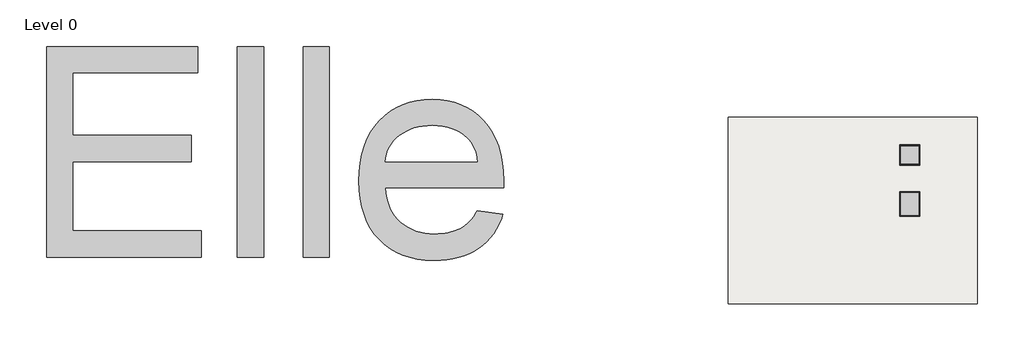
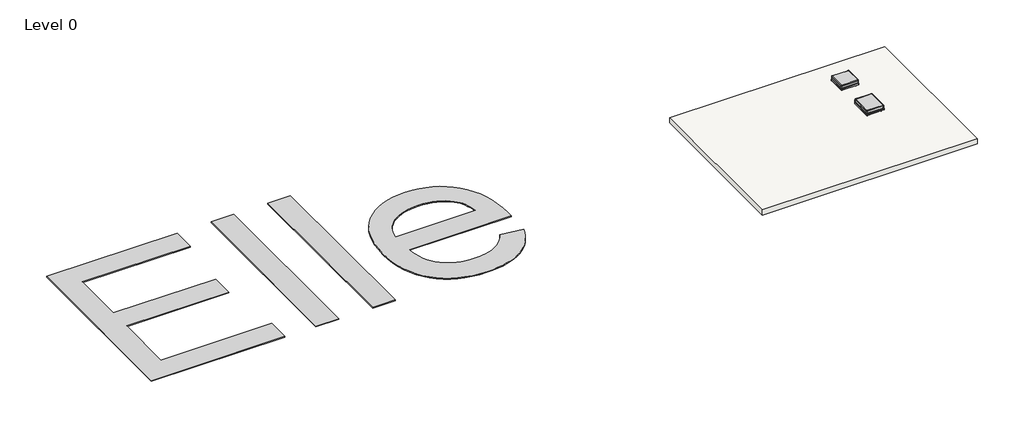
# One storey, incomplete: 2 furniture elements, 1 proxy, 1 slab.
"""IFC4 building model written with IfcOpenShell, lengths in millimetres."""

from ifc_helpers import new_model, si_unit, frame, origin, origin_with_axes, place, context, project, spatial, polyline, outline, extrude, transform, mapped, element, save
from components import furniture_ca96096a, furniture_bdf2a79c

model = new_model("IFC4")

# Units and contexts
model_context = context("Model", 3, world=origin())
ifc_project = project(units=[si_unit("LENGTHUNIT", "METRE", prefix="MILLI")], contexts=[model_context])

# Site, building, storey
site = spatial("IfcSite", under=ifc_project)
building = spatial("IfcBuilding", under=site)
storey = spatial("IfcBuildingStorey", under=building, Name="Level 0", Elevation=0.0)

# Proxy
placement = place(None, origin())
element("IfcBuildingElementProxy", 1, Name="10 mm", ObjectType="10 mm", at=placement, inside=storey, context=model_context, shape_type="SweptSolid", body=[
    extrude(outline(polyline([(-137574.8894465, 70710.4267394), (-137574.8894465, 80756.0577544), (-130354.5921545, 80756.0577544), (-130354.5921545, 79500.3538775), (-136319.1855697, 79500.3538775), (-136319.1855697, 76518.0571699), (-130668.5181238, 76518.0571699), (-130668.5181238, 75262.3532931), (-136319.1855697, 75262.3532931), (-136319.1855697, 71966.1306163), (-130197.6291699, 71966.1306163), (-130197.6291699, 70710.4267394), (-137574.8894465, 70710.4267394)])), origin_with_axes(), (0.0, 0.0, 1.0), 50.0),
    extrude(outline(polyline([(-128471.0363392, 70710.4267394), (-128471.0363392, 80756.0577544), (-127215.3324624, 80756.0577544), (-127215.3324624, 70710.4267394), (-128471.0363392, 70710.4267394)])), origin_with_axes(), (0.0, 0.0, 1.0), 50.0),
    extrude(outline(polyline([(-125331.7766471, 70710.4267394), (-125331.7766471, 80756.0577544), (-124076.0727702, 80756.0577544), (-124076.0727702, 70710.4267394), (-125331.7766471, 70710.4267394)])), origin_with_axes(), (0.0, 0.0, 1.0), 50.0),
    extrude(outline(polyline([(-117027.4537426, 72907.9085239), (-115796.2753321, 72750.9455393), (-115882.4018721, 72497.0686416), (-115985.0447808, 72257.8303816), (-116104.2040583, 72033.2307594), (-116239.8797046, 71823.2697748), (-116392.0717196, 71627.947428), (-116560.7801033, 71447.2637189), (-116746.0048558, 71281.2186476), (-116947.745977, 71129.8122139), (-117165.0071199, 70994.7305438), (-117396.7919373, 70877.6597631), (-117643.1004294, 70778.5998716), (-117903.9325961, 70697.5508696), (-118179.2884374, 70634.5127569), (-118469.1679533, 70589.4855335), (-118773.5711438, 70562.4691995), (-119092.4980089, 70553.4637548), (-119492.6846417, 70569.002937), (-119871.6414178, 70615.6204836), (-120229.3683371, 70693.3163945), (-120565.8653995, 70802.0906699), (-120881.1326052, 70941.9433096), (-121175.1699541, 71112.8743137), (-121447.9774461, 71314.8836822), (-121699.5550813, 71547.9714151), (-121925.457619, 71809.1101501), (-122121.2398183, 72095.272525), (-122286.9016793, 72406.4585398), (-122422.4432019, 72742.6681944), (-122527.8643861, 73103.901489), (-122603.165232, 73490.1584234), (-122648.3457395, 73901.4389977), (-122663.4059087, 74337.7432119), (-122648.1924554, 74788.8968295), (-122602.5520953, 75214.0687812), (-122526.4848286, 75613.259067), (-122419.9906552, 75986.4676869), (-122283.0695752, 76333.6946409), (-122115.7215884, 76654.939929), (-121917.9466949, 76950.2035511), (-121689.7448948, 77219.4855074), (-121437.2858756, 77459.7584355), (-121166.739325, 77667.9949732), (-120878.1052429, 77844.1951205), (-120571.3836295, 77988.3588773), (-120246.5744846, 78100.4862438), (-119903.6778082, 78180.5772198), (-119542.6936005, 78228.6318054), (-119163.6218613, 78244.6500006), (-118796.9469789, 78228.6701265), (-118447.4016019, 78180.730504), (-118114.9857303, 78100.8311331), (-117799.6993641, 77988.972014), (-117501.5425034, 77845.1531465), (-117220.515148, 77669.3745307), (-116956.617298, 77461.6361665), (-116709.8489534, 77221.938054), (-116486.533086, 76953.2692344), (-116292.9926676, 76658.6187489), (-116129.2276982, 76337.9865975), (-115995.2381778, 75991.3727802), (-115891.0241064, 75618.7772969), (-115816.5854839, 75220.2001478), (-115771.9223104, 74795.6413327), (-115757.0345859, 74345.1008518), (-115764.3922258, 74006.6494162), (-121407.7020318, 74006.6494162), (-121380.3216479, 73748.3272777), (-121334.9686957, 73505.5634819), (-121271.6431752, 73278.3580289), (-121190.3450864, 73066.7109185), (-121091.0744292, 72870.6221509), (-120973.8312038, 72690.091726), (-120838.61541, 72525.1196437), (-120685.427048, 72375.7059042), (-120518.2515059, 72242.9234966), (-120341.0741721, 72127.84541), (-120153.8950465, 72030.4716444), (-119956.7141292, 71950.8021998), (-119749.5314201, 71888.8370763), (-119532.3469193, 71844.5762737), (-119305.1606268, 71818.0197922), (-119067.9725425, 71809.1676317), (-118891.0059744, 71813.2679831), (-118720.6306254, 71825.5690373), (-118556.8464955, 71846.0707943), (-118399.6535846, 71874.7732541), (-118249.0518928, 71911.6764168), (-118105.0414201, 71956.7802822), (-117967.6221665, 72010.0848505), (-117836.794132, 72071.5901216), (-117712.5573165, 72142.0625163), (-117594.9117202, 72222.2684554), (-117483.8573429, 72312.207939), (-117379.3941847, 72411.8809671), (-117281.5222455, 72521.2875396), (-117190.2415255, 72640.4276566), (-117105.5520245, 72769.301318), (-117027.4537426, 72907.9085239)]), holes=[polyline([(-121407.7020318, 75262.3532931), (-117012.7384628, 75262.3532931), (-117039.908081, 75445.9110802), (-117077.2710961, 75617.6659867), (-117124.8275082, 75777.6180126), (-117182.5773172, 75925.7671577), (-117250.5205232, 76062.1134222), (-117328.6571261, 76186.6568059), (-117416.987126, 76299.3973091), (-117515.5105229, 76400.3349315), (-117680.8274944, 76538.2906797), (-117857.9473467, 76657.8523281), (-118046.8700796, 76759.0198768), (-118247.5956933, 76841.7933257), (-118460.1241876, 76906.1726748), (-118684.4555625, 76952.1579242), (-118920.5898182, 76979.7490739), (-119168.5269545, 76988.9461238), (-119393.8738371, 76981.6076444), (-119610.0619908, 76959.5922062), (-119817.0914157, 76922.8998093), (-120014.9621118, 76871.5304536), (-120203.674079, 76805.4841392), (-120383.2273174, 76724.760866), (-120553.6218269, 76629.360634), (-120714.8576076, 76519.2834433), (-120862.757666, 76396.9051983), (-120993.1450085, 76264.6018037), (-121106.0196353, 76122.3732594), (-121201.3815462, 75970.2195655), (-121279.2307413, 75808.1407218), (-121339.5672206, 75636.1367286), (-121382.3909841, 75454.2075857), (-121407.7020318, 75262.3532931)])]), origin_with_axes(), (0.0, 0.0, 1.0), 50.0),
])

# Furniture
furniture_shape = furniture_ca96096a(model_context)
element("IfcFurniture", 2, ObjectType="Ottoman_Bensen_Elle_ELS000 : Ottoman_Bensen_Elle_ELS000", at=placement, inside=storey, context=model_context, shape_type="MappedRepresentation", body=[
    mapped(furniture_shape, transform((-96372.2995499, 75579.7991561, 0.0), x_axis=(1.0, 0.0, 0.0), y_axis=(0.0, 1.0, 0.0), z_axis=(0.0, 0.0, 1.0))),
])
furniture_2_shape = furniture_bdf2a79c(model_context)
element("IfcFurniture", 3, ObjectType="Ottoman_Bensen_Elle_ELD000 : Ottoman_Bensen_Elle_ELD000", at=placement, inside=storey, context=model_context, shape_type="MappedRepresentation", body=[
    mapped(furniture_2_shape, transform((-96372.2995499, 73242.5502586, 0.0), x_axis=(1.0, 0.0, 0.0), y_axis=(0.0, 1.0, 0.0), z_axis=(0.0, 0.0, 1.0))),
])

# Slab
element("IfcSlab", 4, ObjectType="FL_300 mm_Generic", at=placement, inside=storey, context=model_context, shape_type="SweptSolid", body=[
    extrude(outline(polyline([(-93147.8885325, 77369.9753886), (-93147.8885325, 68469.9753886), (-105047.8885325, 68469.9753886), (-105047.8885325, 77369.9753886), (-93147.8885325, 77369.9753886)])), frame((0.0, 0.0, -300.0), z_axis=(0.0, 0.0, 1.0), x_axis=(1.0, 0.0, 0.0)), (0.0, 0.0, 1.0), 300.0),
])

save(model, "model.ifc")
